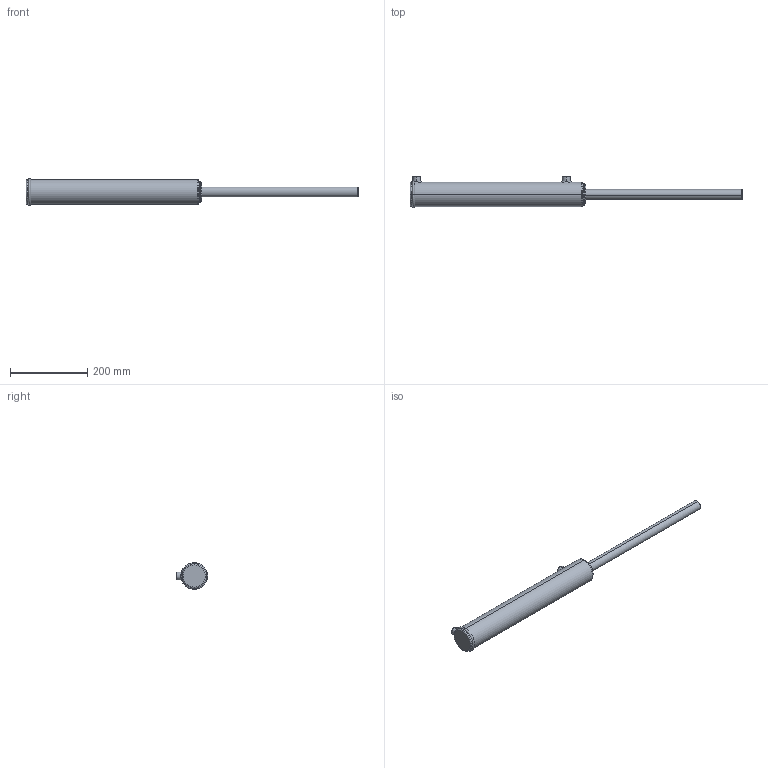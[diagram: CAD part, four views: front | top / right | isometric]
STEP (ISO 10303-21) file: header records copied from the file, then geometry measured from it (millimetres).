
FILE_DESCRIPTION (( 'STEP AP203' ), '1' );
FILE_NAME ('BL200100X355 (14) extended.STEP', '2014-11-23T21:02:12', ( '' ), ( '' ), 'SwSTEP 2.0', 'SolidWorks 2014', '' );
FILE_SCHEMA (( 'CONFIG_CONTROL_DESIGN' ));
Length unit declared in the file: millimetre
Products named in the file (3): BL200100X355 (14) extended; BL body 2_2x14; Spare_2x14
Assembly tree (2 placements, depth 2):
  BL200100X355 (14) extended
    BL body 2_2x14
    Spare_2x14
Bounding box: 861 x 81.5 x 69.5 mm (x, y, z)
Volume: 1570950.7 mm3; surface area: 162361.8 mm2
Topology: 2 solids, 2 shells, 83 faces, 192 edges, 118 vertices
Faces by surface type: cylinder 31, plane 20, torus 17, cone 8, bspline 7
Entity records: 4855 total; most frequent: CARTESIAN_POINT 2688, DIRECTION 416, ORIENTED_EDGE 376, EDGE_CURVE 188, AXIS2_PLACEMENT_3D 179, VERTEX_POINT 118, CIRCLE 98, EDGE_LOOP 96
